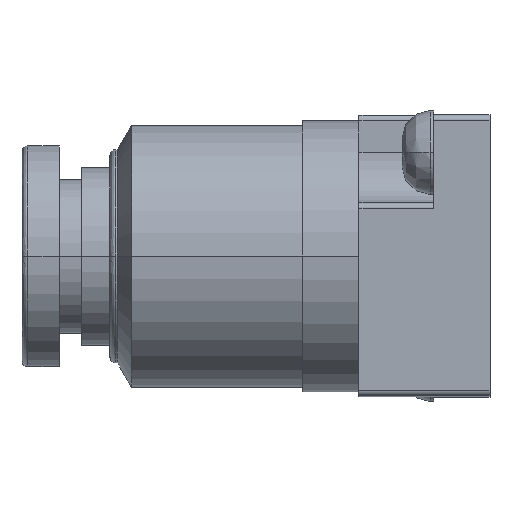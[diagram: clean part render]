
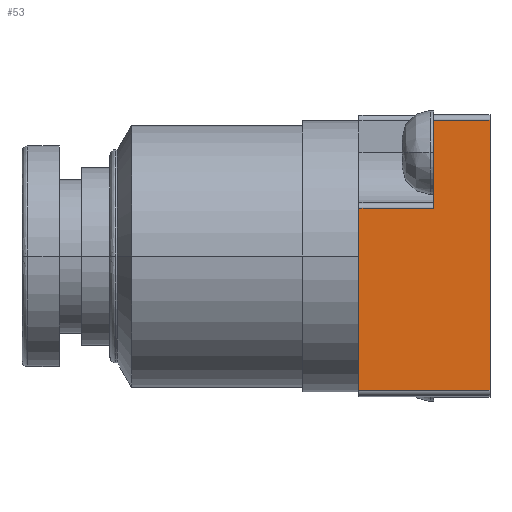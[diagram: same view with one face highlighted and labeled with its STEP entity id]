
A CAD part, top view. The second image highlights one B-rep face of the part: STEP entity #53.
In plain terms, the highlighted planar face has unit normal (0, 0, 1).
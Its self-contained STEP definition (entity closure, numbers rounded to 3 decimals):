
#53=ADVANCED_FACE('',(#244),#243,.T.);
#243=PLANE('',#907);
#244=FACE_OUTER_BOUND('',#908,.T.);
#904=CARTESIAN_POINT('',(-7.7,-16.14,45.6));
#905=DIRECTION('',(0.,0.,1.));
#906=DIRECTION('',(1.,0.,0.));
#907=AXIS2_PLACEMENT_3D('',#904,#905,#906);
#908=EDGE_LOOP('',(#1450,#1451,#1452,#1453,#1454,#1455));
#1450=ORIENTED_EDGE('',*,*,#1750,.F.);
#1451=ORIENTED_EDGE('',*,*,#1761,.F.);
#1452=ORIENTED_EDGE('',*,*,#1787,.T.);
#1453=ORIENTED_EDGE('',*,*,#1788,.T.);
#1454=ORIENTED_EDGE('',*,*,#1789,.F.);
#1455=ORIENTED_EDGE('',*,*,#1790,.F.);
#1750=EDGE_CURVE('',#2004,#2011,#2012,.T.);
#1761=EDGE_CURVE('',#2078,#2004,#2085,.T.);
#1787=EDGE_CURVE('',#2078,#2260,#2261,.T.);
#1788=EDGE_CURVE('',#2260,#2267,#2268,.T.);
#1789=EDGE_CURVE('',#2274,#2267,#2275,.T.);
#1790=EDGE_CURVE('',#2011,#2274,#2281,.T.);
#2004=VERTEX_POINT('',#3142);
#2011=VERTEX_POINT('',#3147);
#2012=LINE('',#3148,#3149);
#2078=VERTEX_POINT('',#3188);
#2085=LINE('',#3193,#3194);
#2260=VERTEX_POINT('',#3300);
#2261=LINE('',#3301,#3302);
#2267=VERTEX_POINT('',#3304);
#2268=LINE('',#3305,#3306);
#2274=VERTEX_POINT('',#3308);
#2275=LINE('',#3309,#3310);
#2281=LINE('',#3312,#3313);
#3142=CARTESIAN_POINT('',(-3.,-5.,45.6));
#3147=CARTESIAN_POINT('',(-3.,-0.3,45.6));
#3148=CARTESIAN_POINT('',(-3.,-5.,45.6));
#3149=VECTOR('',#3150,4.7);
#3150=DIRECTION('',(0.,1.,0.));
#3188=CARTESIAN_POINT('',(-7.,-5.,45.6));
#3193=CARTESIAN_POINT('',(-7.,-5.,45.6));
#3194=VECTOR('',#3195,4.);
#3195=DIRECTION('',(1.,0.,0.));
#3300=CARTESIAN_POINT('',(-7.,-14.7,45.6));
#3301=CARTESIAN_POINT('',(-7.,-5.,45.6));
#3302=VECTOR('',#3303,9.7);
#3303=DIRECTION('',(0.,-1.,0.));
#3304=CARTESIAN_POINT('',(0.,-14.7,45.6));
#3305=CARTESIAN_POINT('',(-7.,-14.7,45.6));
#3306=VECTOR('',#3307,7.);
#3307=DIRECTION('',(1.,0.,0.));
#3308=CARTESIAN_POINT('',(0.,-0.3,45.6));
#3309=CARTESIAN_POINT('',(0.,-0.3,45.6));
#3310=VECTOR('',#3311,14.4);
#3311=DIRECTION('',(0.,-1.,0.));
#3312=CARTESIAN_POINT('',(-3.,-0.3,45.6));
#3313=VECTOR('',#3314,3.);
#3314=DIRECTION('',(1.,0.,0.));
